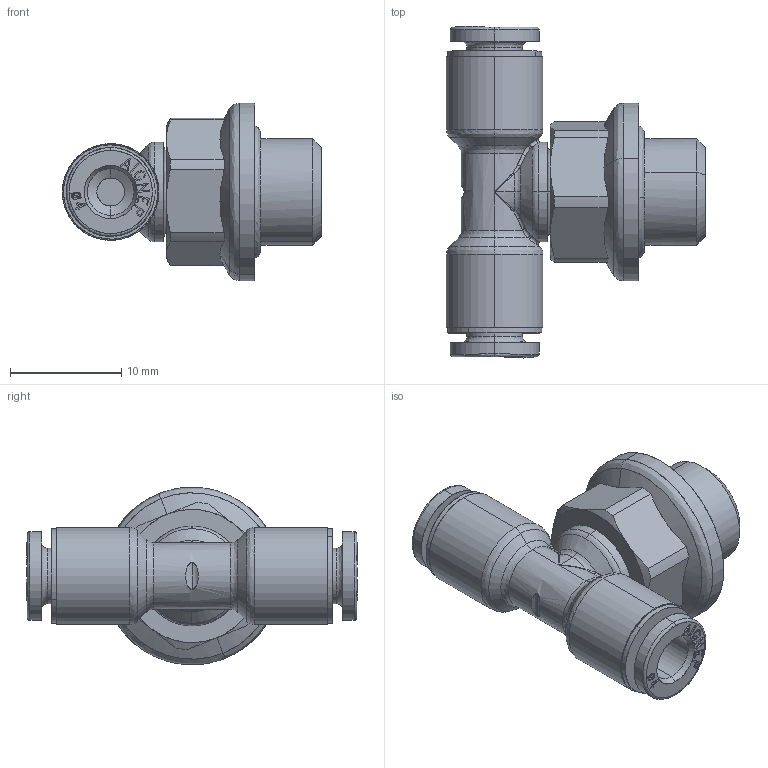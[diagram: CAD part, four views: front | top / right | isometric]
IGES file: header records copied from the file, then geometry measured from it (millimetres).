
Start section: SolidWorks IGES file using analytic representation for surfaces
Global section: file name: K:\Disegni Esecutivi\SERIE 54000\54000-Assiemi\54216\IGES\5421600004A.IGS; native system: SolidWorks 2020; preprocessor: SolidWorks 2020; author: CAD13; date: 240920.104917; units: millimetre
Bounding box: 23.35 x 29.9 x 16 mm (x, y, z)
Surface area: 2172.2 mm2 (no closed solid volume)
Topology: 0 solids, 0 shells, 543 faces, 4258 edges, 4254 vertices
Faces by surface type: bspline 472, revolution 71
